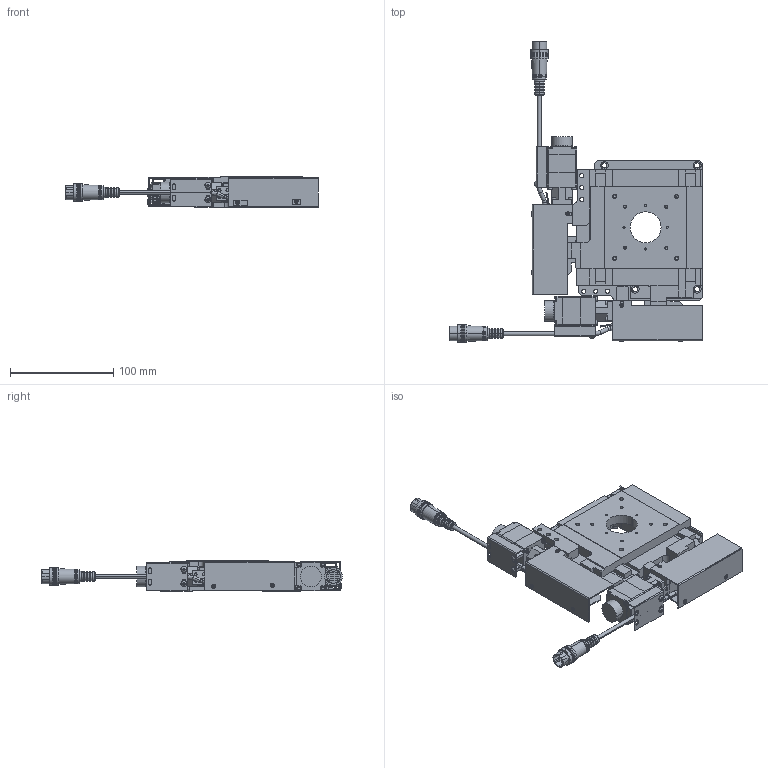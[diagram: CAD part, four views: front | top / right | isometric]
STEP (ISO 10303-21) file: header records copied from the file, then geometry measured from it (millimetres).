
FILE_DESCRIPTION( (''), '2;1');
FILE_NAME ('DR116737-0001-000-00.stp','2018-05-10T10:54:06',(''),(''),'spGate 13.4.4','','');
FILE_SCHEMA (('AUTOMOTIVE_DESIGN'));
Length unit declared in the file: millimetre
Products named in the file (8): Assembly; DR116737-0001-000-00-prt0; DR116737-0001-000-00-prt1; DR116737-0001-000-00-prt2; DR116737-0001-000-00-prt3; DR116737-0001-000-00-prt4; DR116737-0001-000-00-prt5; DR116737-0001-000-00-prt6
Assembly tree (7 placements, depth 2):
  Assembly
    DR116737-0001-000-00-prt0
    DR116737-0001-000-00-prt1
    DR116737-0001-000-00-prt2
    DR116737-0001-000-00-prt3
    DR116737-0001-000-00-prt4
    DR116737-0001-000-00-prt5
    DR116737-0001-000-00-prt6
Bounding box: 245 x 291.5 x 30 mm (x, y, z)
Volume: 460581 mm3; surface area: 175091.4 mm2
Topology: 7 solids, 7 shells, 3007 faces, 7786 edges, 4914 vertices
Faces by surface type: plane 1906, cylinder 711, bspline 374, sphere 16
Entity records: 154311 total; most frequent: CARTESIAN_POINT 20674, ORIENTED_EDGE 15386, DIRECTION 14270, COLOUR_RGB 10707, PRESENTATION_STYLE_ASSIGNMENT 10707, STYLED_ITEM 10707, EDGE_CURVE 7693, DRAUGHTING_PRE_DEFINED_CURVE_FONT 7693
